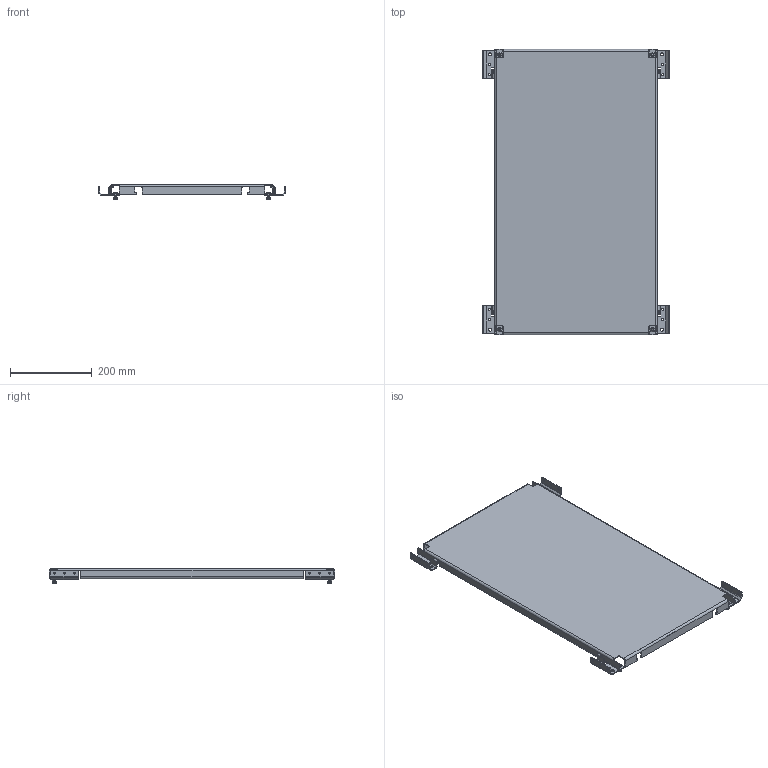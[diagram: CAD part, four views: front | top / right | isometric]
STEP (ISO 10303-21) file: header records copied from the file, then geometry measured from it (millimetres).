
FILE_DESCRIPTION (( 'STEP AP214' ), '1' );
FILE_NAME ('MSD 80.50 M ÑÁ Ïàíåëü ìîíòàæíàÿ ñåêöèîííàÿ â ñáîðå.STEP', '2024-06-14T12:07:02', ( '' ), ( '' ), 'SwSTEP 2.0', 'SolidWorks 2019', '' );
FILE_SCHEMA (( 'AUTOMOTIVE_DESIGN' ));
Length unit declared in the file: millimetre
Products named in the file (1): MSD 80.50 M ÑÁ Ïàíåëü ìîíòàæíàÿ ñåêöèîííàÿ â ñáîðå
Bounding box: 458 x 699 x 36.58 mm (x, y, z)
Volume: 893436.9 mm3; surface area: 729026 mm2
Topology: 13 solids, 13 shells, 790 faces, 1924 edges, 1176 vertices
Faces by surface type: plane 358, cylinder 344, torus 48, bspline 16, cone 16, sphere 8
Entity records: 37512 total; most frequent: CARTESIAN_POINT 10079, DIRECTION 3998, ORIENTED_EDGE 3832, EDGE_CURVE 1916, AXIS2_PLACEMENT_3D 1487, VERTEX_POINT 1176, LINE 1024, VECTOR 1024
